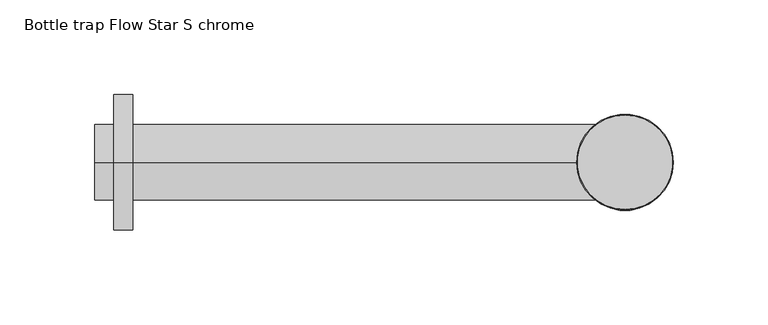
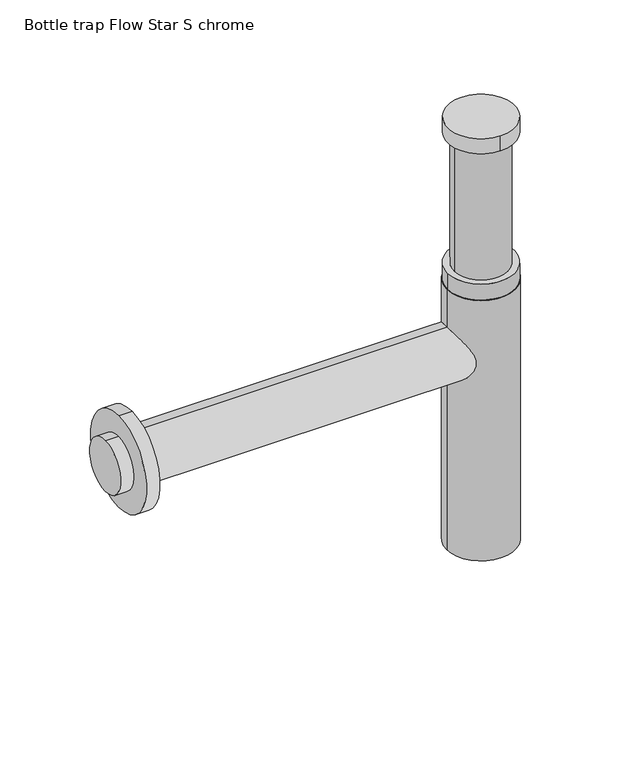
"""IFC4 building model written with IfcOpenShell, lengths in millimetres: flow terminal geometry, GF_SIFON-VESILUKKO FLOWSTAR S KROMI : Bottle trap Flow Star S chrome."""

from ifc_helpers import new_model, si_unit, point, frame, frame_2d, origin, origin_with_axes, origin_2d, place, context, project, spatial, circle_curve, trimmed, segment, composite_curve, outline, extrude, source, transform, mapped, element, save


def bottle_trap_flow_star_s_chrome_1cd5e6a8(model_context):
    return source(origin(), model_context, "Body", "SweptSolid", [
        extrude(outline(composite_curve([segment(trimmed(circle_curve(origin_2d(), 25.0), [point((0.0, -25.0))], [point((0.0, 25.0))], False, "CARTESIAN"), True, "CONTINUOUS"), segment(trimmed(circle_curve(origin_2d(), 25.0), [point((0.0, 25.0))], [point((0.0, -25.0))], False, "CARTESIAN"), True, "CONTINUOUS")], self_intersect=False)), frame((0.0, 0.0, 320.0), z_axis=(0.0, 0.0, 1.0), x_axis=(1.0, 0.0, 0.0)), (0.0, 0.0, 1.0), 12.0),
        extrude(outline(composite_curve([segment(trimmed(circle_curve(origin_2d(), 20.0), [point((20.0, 0.0))], [point((-20.0, 0.0))], False, "CARTESIAN"), True, "CONTINUOUS"), segment(trimmed(circle_curve(origin_2d(), 20.0), [point((-20.0, 0.0))], [point((20.0, 0.0))], False, "CARTESIAN"), True, "CONTINUOUS")], self_intersect=False)), frame((0.0, 0.0, 155.0), z_axis=(0.0, 0.0, 1.0), x_axis=(1.0, 0.0, 0.0)), (0.0, 0.0, 1.0), 165.0),
        extrude(outline(composite_curve([segment(trimmed(circle_curve(frame_2d((0.0, 155.0)), 36.0), [point((0.0, 119.0))], [point((0.0, 191.0))], False, "CARTESIAN"), True, "CONTINUOUS"), segment(trimmed(circle_curve(frame_2d((0.0, 155.0)), 36.0), [point((0.0, 191.0))], [point((0.0, 119.0))], False, "CARTESIAN"), True, "CONTINUOUS")], self_intersect=False)), frame((-270.0, 0.0, 0.0), z_axis=(1.0, 0.0, 0.0), x_axis=(0.0, 1.0, 0.0)), (0.0, 0.0, 1.0), 10.0),
        extrude(outline(composite_curve([segment(trimmed(circle_curve(frame_2d((0.0, 155.0)), 20.0), [point((0.0, 135.0))], [point((0.0, 175.0))], False, "CARTESIAN"), True, "CONTINUOUS"), segment(trimmed(circle_curve(frame_2d((0.0, 155.0)), 20.0), [point((0.0, 175.0))], [point((0.0, 135.0))], False, "CARTESIAN"), True, "CONTINUOUS")], self_intersect=False)), frame((-280.0, 0.0, 0.0), z_axis=(1.0, 0.0, 0.0), x_axis=(0.0, 1.0, 0.0)), (0.0, 0.0, 1.0), 280.0),
        extrude(outline(composite_curve([segment(trimmed(circle_curve(origin_2d(), 25.0), [point((25.0, 0.0))], [point((-25.0, 0.0))], False, "CARTESIAN"), True, "CONTINUOUS"), segment(trimmed(circle_curve(origin_2d(), 25.0), [point((-25.0, 0.0))], [point((25.0, 0.0))], False, "CARTESIAN"), True, "CONTINUOUS")], self_intersect=False)), frame((0.0, 0.0, 205.0), z_axis=(0.0, 0.0, 1.0), x_axis=(1.0, 0.0, 0.0)), (0.0, 0.0, 1.0), 12.5),
        extrude(outline(composite_curve([segment(trimmed(circle_curve(origin_2d(), 25.5), [point((25.5, 0.0))], [point((-25.5, 0.0))], False, "CARTESIAN"), True, "CONTINUOUS"), segment(trimmed(circle_curve(origin_2d(), 25.5), [point((-25.5, 0.0))], [point((25.5, 0.0))], False, "CARTESIAN"), True, "CONTINUOUS")], self_intersect=False)), origin_with_axes(), (0.0, 0.0, 1.0), 205.0),
    ])


if __name__ == "__main__":
    model = new_model("IFC4")
    model_context = context("Model", 3, world=origin())
    ifc_project = project(units=[si_unit("LENGTHUNIT", "METRE", prefix="MILLI")], contexts=[model_context])
    site = spatial("IfcSite", under=ifc_project)
    building = spatial("IfcBuilding", under=site)
    placement = place(None, origin())
    bottle_trap_flow_star_s_chrome_shape = bottle_trap_flow_star_s_chrome_1cd5e6a8(model_context)
    element("IfcFlowTerminal", 1, ObjectType="GF_SIFON-VESILUKKO FLOWSTAR S KROMI : Bottle trap Flow Star S chrome", at=placement, inside=building, context=model_context, shape_type="MappedRepresentation", body=[
        mapped(bottle_trap_flow_star_s_chrome_shape, transform((0.0, 0.0, 0.0), x_axis=(1.0, 0.0, 0.0), y_axis=(0.0, 1.0, 0.0), z_axis=(0.0, 0.0, 1.0))),
    ])
    save(model, "model.ifc")
